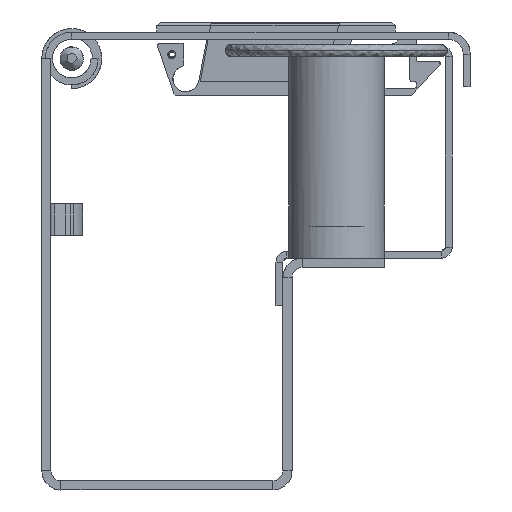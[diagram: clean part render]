
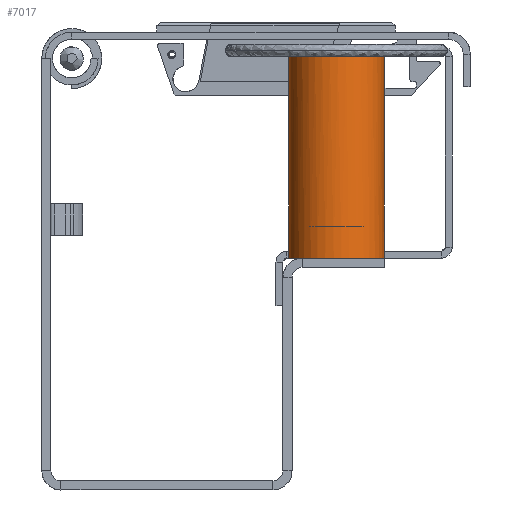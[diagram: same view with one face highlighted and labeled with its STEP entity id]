
A CAD part, front view. The second image highlights one B-rep face of the part: STEP entity #7017.
In plain terms, the highlighted free-form (B-spline) face has degree [2, 1] with [7, 2] control points.
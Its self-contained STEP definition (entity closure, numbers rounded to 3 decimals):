
#6942=CARTESIAN_POINT('V1',(1045.278,
   2698.417,503.168));
#6943=VERTEX_POINT('V1',#6942);
#6944=CARTESIAN_POINT('E1',(1045.278,
   2698.417,503.168));
#6945=CARTESIAN_POINT('E1',(1045.278,
   2681.919,503.168));
#6946=CARTESIAN_POINT('E1',(1059.566,
   2690.168,503.168));
#6947=CARTESIAN_POINT('E1',(1073.853,
   2698.417,503.168));
#6948=CARTESIAN_POINT('E1',(1059.566,
   2706.666,503.168));
#6949=CARTESIAN_POINT('E1',(1045.278,
   2714.915,503.168));
#6950=CARTESIAN_POINT('E1',(1045.278,
   2698.417,503.168));
#6958=(BOUNDED_CURVE()B_SPLINE_CURVE(2,(#6944,#6945,#6946,#6947,
   #6948,#6949,#6950),.CIRCULAR_ARC.,.T.,.U.)
   B_SPLINE_CURVE_WITH_KNOTS((3,2,2,3),(0.0,0.333,
   0.667,1.0),.UNSPECIFIED.)CURVE()
   GEOMETRIC_REPRESENTATION_ITEM()RATIONAL_B_SPLINE_CURVE((1.0,
   0.5,1.0,0.5,1.0,0.5,1.0)
   )REPRESENTATION_ITEM('E1'));
#6959=EDGE_CURVE('E1',#6943,#6943,#6958,.T.);
#6967=CARTESIAN_POINT('F3',(1045.278,
   2698.417,545.84));
#6968=CARTESIAN_POINT('F3',(1045.278,
   2714.915,545.84));
#6969=CARTESIAN_POINT('F3',(1059.566,
   2706.666,545.84));
#6970=CARTESIAN_POINT('F3',(1073.853,
   2698.417,545.84));
#6971=CARTESIAN_POINT('F3',(1059.566,
   2690.168,545.84));
#6972=CARTESIAN_POINT('F3',(1045.278,
   2681.919,545.84));
#6973=CARTESIAN_POINT('F3',(1045.278,
   2698.417,545.84));
#6974=CARTESIAN_POINT('F3',(1045.278,
   2698.417,503.168));
#6975=CARTESIAN_POINT('F3',(1045.278,
   2714.915,503.168));
#6976=CARTESIAN_POINT('F3',(1059.566,
   2706.666,503.168));
#6977=CARTESIAN_POINT('F3',(1073.853,
   2698.417,503.168));
#6978=CARTESIAN_POINT('F3',(1059.566,
   2690.168,503.168));
#6979=CARTESIAN_POINT('F3',(1045.278,
   2681.919,503.168));
#6980=CARTESIAN_POINT('F3',(1045.278,
   2698.417,503.168));
#6988=(BOUNDED_SURFACE()B_SPLINE_SURFACE(2,1,((#6967,#6974),(
   #6968,#6975),(#6969,#6976),(#6970,#6977),(#6971,#6978),(
   #6972,#6979),(#6973,#6980)),.CYLINDRICAL_SURF.,.T.,.F.,.U.)
   B_SPLINE_SURFACE_WITH_KNOTS((3,2,2,3),(2,2),(0.0,
   0.773,1.546,2.32),(0.0,1.0),
   .UNSPECIFIED.)GEOMETRIC_REPRESENTATION_ITEM()
   RATIONAL_B_SPLINE_SURFACE(((1.0,1.0),(0.5,
   0.5),(1.0,1.0),(0.5,
   0.5),(1.0,1.0),(0.5,
   0.5),(1.0,1.0)))REPRESENTATION_ITEM('F3')SURFACE()
   );
#6989=CARTESIAN_POINT('V5',(1045.278,
   2698.417,543.459));
#6990=VERTEX_POINT('V5',#6989);
#6991=CARTESIAN_POINT('E6',(1045.278,
   2698.417,543.459));
#6992=CARTESIAN_POINT('E6',(1045.278,
   2714.915,543.459));
#6993=CARTESIAN_POINT('E6',(1059.566,
   2706.666,543.459));
#6994=CARTESIAN_POINT('E6',(1073.853,
   2698.417,543.459));
#6995=CARTESIAN_POINT('E6',(1059.566,
   2690.168,543.459));
#6996=CARTESIAN_POINT('E6',(1045.278,
   2681.919,543.459));
#6997=CARTESIAN_POINT('E6',(1045.278,
   2698.417,543.459));
#7005=(BOUNDED_CURVE()B_SPLINE_CURVE(2,(#6991,#6992,#6993,#6994,
   #6995,#6996,#6997),.CIRCULAR_ARC.,.T.,.U.)
   B_SPLINE_CURVE_WITH_KNOTS((3,2,2,3),(0.0,0.333,
   0.667,1.0),.UNSPECIFIED.)CURVE()
   GEOMETRIC_REPRESENTATION_ITEM()RATIONAL_B_SPLINE_CURVE((1.0,
   0.5,1.0,0.5,1.0,0.5,1.0)
   )REPRESENTATION_ITEM('E6'));
#7006=EDGE_CURVE('E6',#6990,#6990,#7005,.T.);
#7007=ORIENTED_EDGE('E6',*,*,#7006,.F.);
#7008=CARTESIAN_POINT('E7',(1045.278,
   2698.417,503.168));
#7009=CARTESIAN_POINT('E7',(1045.278,
   2698.417,543.459));
#7010=B_SPLINE_CURVE_WITH_KNOTS('E7',1,(#7008,#7009),.POLYLINE_FORM.,
   .F.,.U.,(2,2),(0.0,0.944),.UNSPECIFIED.);
#7011=EDGE_CURVE('E7',#6943,#6990,#7010,.T.);
#7012=ORIENTED_EDGE('E7',*,*,#7011,.F.);
#7013=ORIENTED_EDGE('F1',*,*,#6959,.F.);
#7014=ORIENTED_EDGE('E7',*,*,#7011,.T.);
#7015=EDGE_LOOP('F3',(#7007,#7012,#7013,#7014));
#7016=FACE_OUTER_BOUND('F3',#7015,.F.);
#7017=ADVANCED_FACE('F3',(#7016),#6988,.T.);
